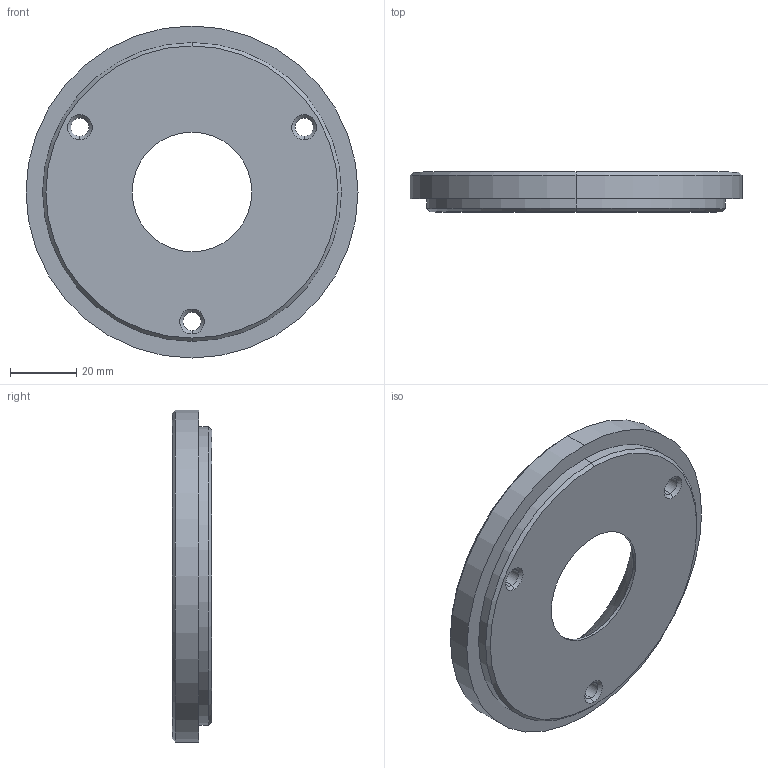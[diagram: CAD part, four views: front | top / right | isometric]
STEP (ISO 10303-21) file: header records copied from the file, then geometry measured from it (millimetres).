
FILE_DESCRIPTION (( 'STEP AP214' ), '1' );
FILE_NAME ('BR1000-100x12.STEP', '2020-02-05T12:15:39', ( 'August' ), ( '' ), 'SwSTEP 2.0', 'SolidWorks 2018', '' );
FILE_SCHEMA (( 'AUTOMOTIVE_DESIGN' ));
Length unit declared in the file: millimetre
Products named in the file (1): BR1000-100x12
Bounding box: 100 x 12 x 100 mm (x, y, z)
Volume: 65821.9 mm3; surface area: 18361.9 mm2
Topology: 1 solids, 1 shells, 42 faces, 90 edges, 54 vertices
Faces by surface type: cone 18, cylinder 18, plane 6
Entity records: 1194 total; most frequent: DIRECTION 230, CARTESIAN_POINT 187, ORIENTED_EDGE 180, AXIS2_PLACEMENT_3D 97, EDGE_CURVE 90, EDGE_LOOP 54, CIRCLE 54, VERTEX_POINT 54
